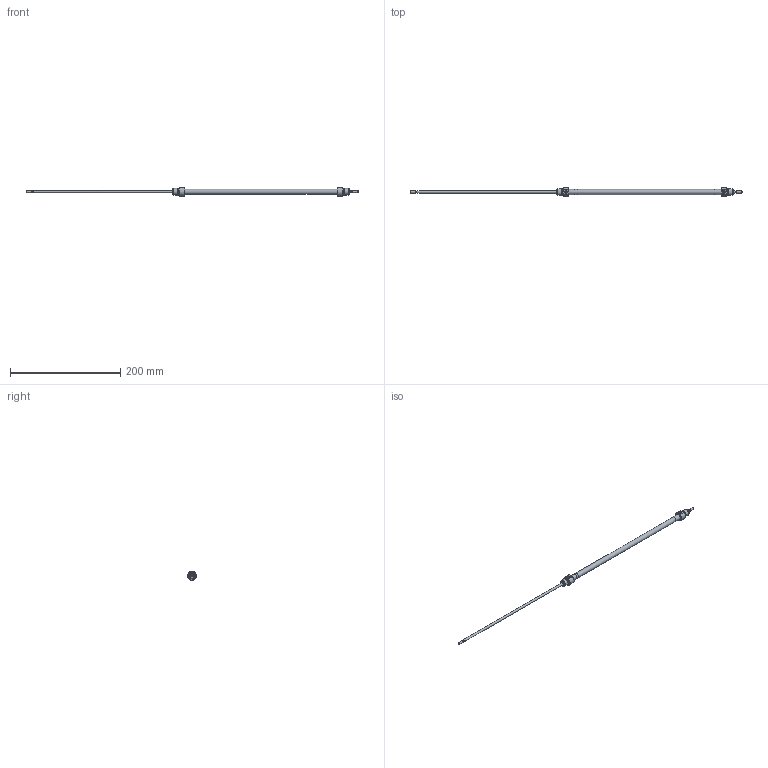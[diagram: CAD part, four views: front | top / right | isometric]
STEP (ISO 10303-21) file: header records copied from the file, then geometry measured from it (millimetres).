
FILE_DESCRIPTION( ( 'STEP AP203' ), '1' );
FILE_NAME( '//expscmdclustefs.cadenas.external/client_exchange/iodir/jobs/output/wkb68263164_no0/STEP/M101-08-0250--__0__2_03.stp', ' ', ( ' ' ), ( ' ' ), 'PSStep 15.0.47', 'PARTsolutions', ' ' );
FILE_SCHEMA( ( 'CONFIG_CONTROL_DESIGN' ) );
Length unit declared in the file: millimetre
Products named in the file (3): M101-08-0250-- [0]; HI_M101-08-0250---[0]-z; HI_M101-08-0250---[0]-k
Assembly tree (2 placements, depth 2):
  M101-08-0250-- [0]
    HI_M101-08-0250---[0]-z
    HI_M101-08-0250---[0]-k
Bounding box: 602 x 15.98 x 14.97 mm (x, y, z)
Volume: 19150.7 mm3; surface area: 25673.2 mm2
Topology: 2 solids, 2 shells, 71 faces, 145 edges, 88 vertices
Faces by surface type: plane 32, cylinder 23, cone 14, torus 2
Full cylindrical faces by diameter (mm): 3.141 x2, 4 x6, 4.134 x2, 8 x2, 9.3 x1, 10.466 x4, 12 x4
Entity records: 1838 total; most frequent: CARTESIAN_POINT 358, DIRECTION 312, ORIENTED_EDGE 212, AXIS2_PLACEMENT_3D 140, EDGE_LOOP 120, EDGE_CURVE 106, FACE_OUTER_BOUND 94, VERTEX_POINT 82
